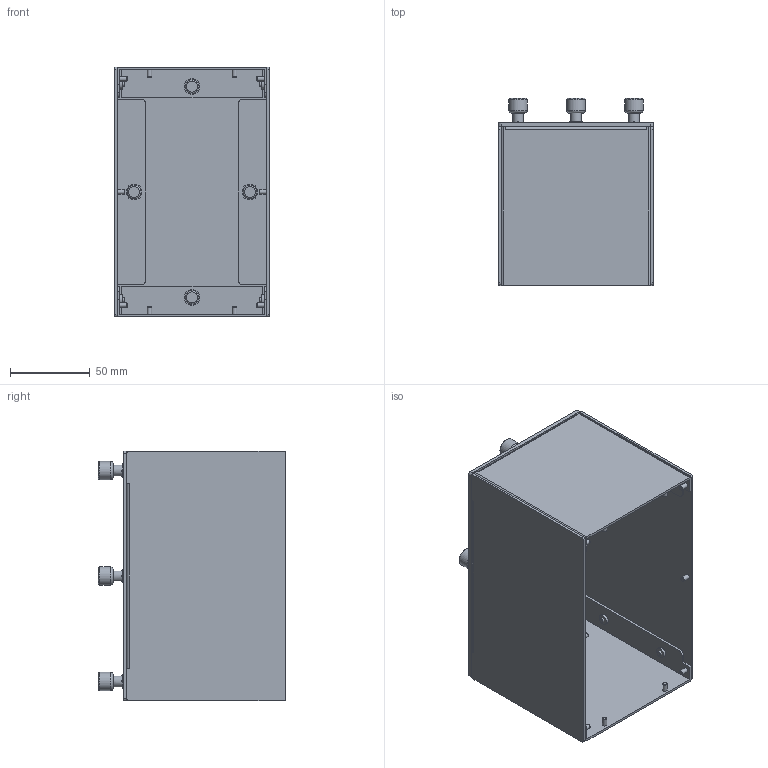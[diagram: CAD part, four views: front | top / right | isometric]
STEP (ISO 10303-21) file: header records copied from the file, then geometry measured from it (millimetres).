
FILE_DESCRIPTION((''),'2;1');
FILE_NAME('C:\old_Drawings\shrinkwrapped website .stp files\561506-STP.stp','2011-06-24T08:48:01',('GaryRobinson'),(''),'Autodesk Inventor 2011','Autodesk Inventor 2011','');
FILE_SCHEMA(('CONFIG_CONTROL_DESIGN'));
Length unit declared in the file: inch
Products named in the file (1): 561506-STP
Bounding box: 96.88 x 117.09 x 156.34 mm (x, y, z)
Surface area: 150753.1 mm2 (no closed solid volume)
Topology: 0 solids, 63 shells, 192 faces, 594 edges, 450 vertices
Faces by surface type: plane 96, cylinder 76, torus 12, cone 8
Full cylindrical faces by diameter (mm): 2.845 x18, 3.505 x2, 6.35 x8, 6.858 x4, 11.43 x4
Entity records: 6771 total; most frequent: CARTESIAN_POINT 1173, DIRECTION 1146, ORIENTED_EDGE 722, EDGE_CURVE 534, VERTEX_POINT 446, AXIS2_PLACEMENT_3D 419, VECTOR 308, LINE 308
